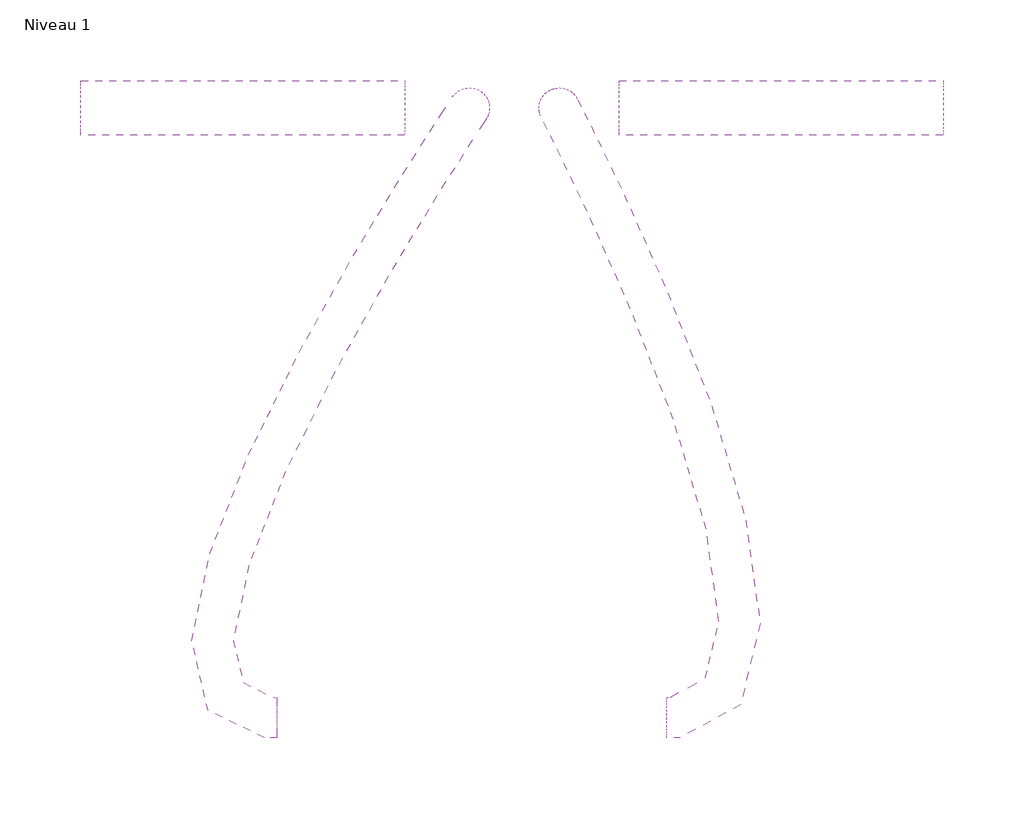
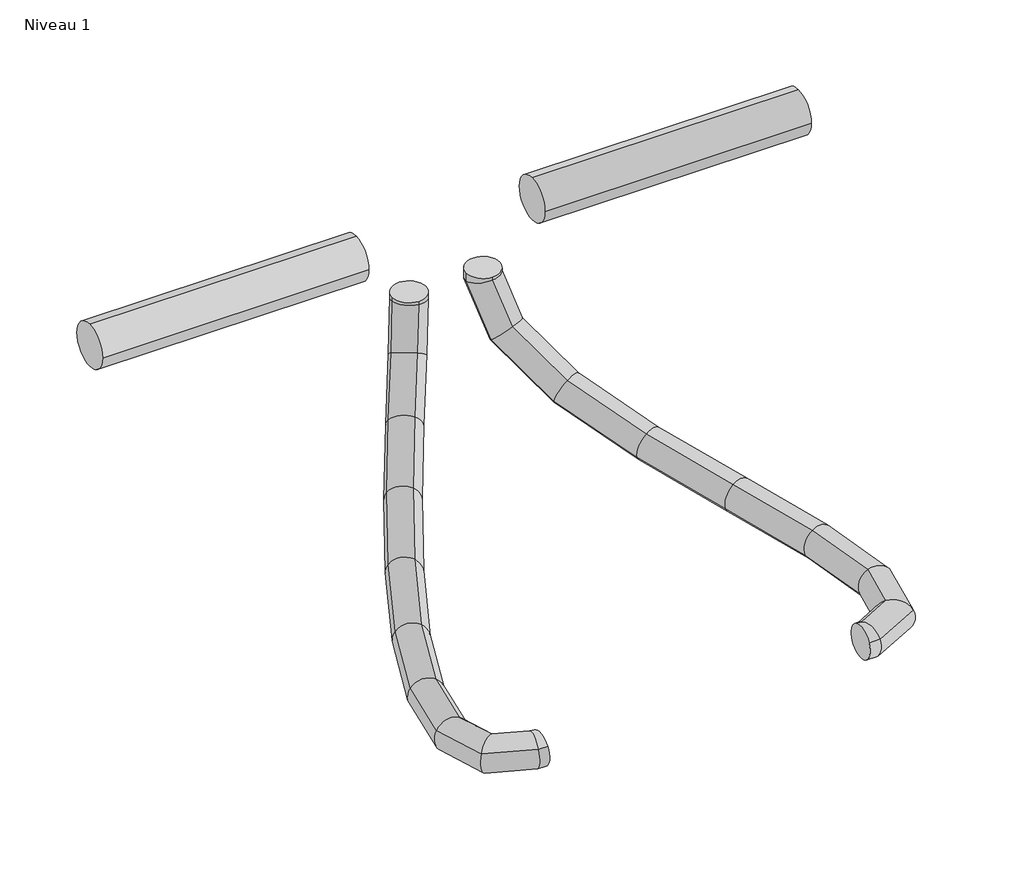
# One storey, incomplete: 4 pipe segments.
"""IFC4 building model written with IfcOpenShell, lengths in millimetres."""

from ifc_helpers import new_model, si_unit, point, frame, frame_2d, origin, place, context, project, spatial, circle_curve, ellipse_curve, trimmed, segment, composite_curve, outline, extrude, element, save
from ifc_brep_helpers import plane_surface, cylinder_surface, advanced_brep

model = new_model("IFC4")

# Units and contexts
model_context = context("Model", 3, world=origin())
ifc_project = project(units=[si_unit("LENGTHUNIT", "METRE", prefix="MILLI")], contexts=[model_context])

# Site, building, storey
site = spatial("IfcSite", under=ifc_project)
building = spatial("IfcBuilding", under=site)
storey = spatial("IfcBuildingStorey", under=building, Name="Niveau 1", Elevation=0.0)

# Pipe segments
placement = place(None, origin())
element("IfcPipeSegment", 1, ObjectType="Souple - Circulaire", at=placement, inside=storey, context=model_context, shape_type="AdvancedBrep", body=[
    advanced_brep(
    [(2727.8458976, -571.1251876, 1557.88203), (2740.3458976, -583.6251876, 1557.88203), (2752.8458976, -571.1251876, 1557.88203), (2740.3458976, -558.6251876, 1557.88203), (2727.8458976, -571.1251876, 1551.5558728), (2740.3458976, -583.6251876, 1555.4941627), (2752.8458976, -571.1251876, 1554.2116964), (2740.3458976, -558.6251876, 1550.2734064), (2806.738103, -936.6631357, 1459.60311), (2806.738103, -953.6137318, 1454.585412), (2806.738103, -958.6314298, 1471.536008), (2806.738103, -941.6808338, 1476.5537061), (2736.6586557, -588.4491028, 1512.3543926), (2747.3762557, -597.4453023, 1524.2212694), (2760.4934863, -586.1586399, 1520.1931977), (2749.7758863, -577.1624405, 1508.3263209), (2758.0489896, -632.7806893, 1483.1216254), (2766.0776849, -636.2041187, 1498.6632521), (2780.2638556, -627.1328406, 1493.1743301), (2772.2351603, -623.7094112, 1477.6327035), (2785.0910125, -693.7065673, 1465.8559173), (2791.8228816, -694.208238, 1482.2255375), (2806.752386, -686.8116962, 1476.2620141), (2800.0205169, -686.3100256, 1459.8923939), (2811.8268554, -762.7069374, 1457.3736778), (2818.0385677, -761.8661773, 1473.9083235), (2833.5864407, -756.0655329, 1467.7486159), (2827.3747284, -756.9062931, 1451.2139702), (2832.1893271, -830.9066371, 1455.0529973), (2838.28373, -829.6729747, 1471.6010125), (2854.5027046, -826.12004, 1465.3648205), (2848.4083016, -827.3537024, 1448.8168052), (2840.1406558, -888.4778678, 1456.3396884), (2846.351738, -888.0890166, 1472.9065848), (2863.2084435, -889.153543, 1466.773591), (2856.9973612, -889.5423942, 1450.2066946), (2831.6177395, -924.3019756, 1458.5251782), (2837.0317468, -927.2634446, 1475.2964646), (2851.4362533, -938.6352224, 1469.7922761), (2846.0222459, -935.6737534, 1453.0209897), (2809.0671634, -936.6631357, 1459.60311), (2810.7299736, -941.6808338, 1476.5537061), (2814.9569915, -958.6314298, 1471.536008), (2813.2941814, -953.6137318, 1454.585412)],
    [
        (0, 1, circle_curve(frame((2740.3458976, -571.1251876, 1557.88203), z_axis=(0.0, 0.0, 1.0), x_axis=(-1.0, 0.0, 0.0)), 12.5)),
        (1, 2, circle_curve(frame((2740.3458976, -571.1251876, 1557.88203), z_axis=(0.0, 0.0, 1.0), x_axis=(-1.0, 0.0, 0.0)), 12.5)),
        (2, 3, circle_curve(frame((2740.3458976, -571.1251876, 1557.88203), z_axis=(0.0, 0.0, 1.0), x_axis=(-1.0, 0.0, 0.0)), 12.5)),
        (3, 0, circle_curve(frame((2740.3458976, -571.1251876, 1557.88203), z_axis=(0.0, 0.0, 1.0), x_axis=(-1.0, 0.0, 0.0)), 12.5)),
        (0, 4),
        (4, 5, ellipse_curve(frame((2740.3458976, -571.1251876, 1552.8837846), z_axis=(-0.1034318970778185, 0.20332402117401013, 0.9736329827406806), x_axis=(0.441454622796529, -0.8678012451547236, 0.2281201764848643)), 12.8385133, 12.5)),
        (5, 1),
        (5, 6, ellipse_curve(frame((2740.3458976, -571.1251876, 1552.8837846), z_axis=(-0.1034318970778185, 0.20332402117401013, 0.9736329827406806), x_axis=(0.441454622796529, -0.8678012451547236, 0.2281201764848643)), 12.8385133, 12.5)),
        (6, 2),
        (6, 7, ellipse_curve(frame((2740.3458976, -571.1251876, 1552.8837846), z_axis=(-0.1034318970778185, 0.20332402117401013, 0.9736329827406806), x_axis=(0.441454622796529, -0.8678012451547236, 0.2281201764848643)), 12.8385133, 12.5)),
        (7, 3),
        (7, 4, ellipse_curve(frame((2740.3458976, -571.1251876, 1552.8837846), z_axis=(-0.1034318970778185, 0.20332402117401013, 0.9736329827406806), x_axis=(0.441454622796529, -0.8678012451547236, 0.2281201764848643)), 12.8385133, 12.5)),
        (8, 9, circle_curve(frame((2806.738103, -947.6472828, 1465.569559), z_axis=(-1.0, 0.0, 0.0), x_axis=(0.0, 0.8787317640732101, -0.47731591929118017)), 12.5)),
        (9, 10, circle_curve(frame((2806.738103, -947.6472828, 1465.569559), z_axis=(-1.0, 0.0, 0.0), x_axis=(0.0, 0.8787317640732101, -0.47731591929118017)), 12.5)),
        (10, 11, circle_curve(frame((2806.738103, -947.6472828, 1465.569559), z_axis=(-1.0, 0.0, 0.0), x_axis=(0.0, 0.8787317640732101, -0.47731591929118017)), 12.5)),
        (11, 8, circle_curve(frame((2806.738103, -947.6472828, 1465.569559), z_axis=(-1.0, 0.0, 0.0), x_axis=(0.0, 0.8787317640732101, -0.47731591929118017)), 12.5)),
        (4, 12),
        (12, 13, ellipse_curve(frame((2748.576071, -587.3038714, 1516.2737951), z_axis=(-0.2998196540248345, 0.6101702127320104, 0.7333488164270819), x_axis=(0.30383064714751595, -0.6676119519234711, 0.6796920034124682)), 13.0345151, 12.5)),
        (13, 5),
        (13, 14, ellipse_curve(frame((2748.576071, -587.3038714, 1516.2737951), z_axis=(-0.2998196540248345, 0.6101702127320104, 0.7333488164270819), x_axis=(0.30383064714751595, -0.6676119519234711, 0.6796920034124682)), 13.0345151, 12.5)),
        (14, 6),
        (14, 15, ellipse_curve(frame((2748.576071, -587.3038714, 1516.2737951), z_axis=(-0.2998196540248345, 0.6101702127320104, 0.7333488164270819), x_axis=(0.30383064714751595, -0.6676119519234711, 0.6796920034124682)), 13.0345151, 12.5)),
        (15, 7),
        (15, 12, ellipse_curve(frame((2748.576071, -587.3038714, 1516.2737951), z_axis=(-0.2998196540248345, 0.6101702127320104, 0.7333488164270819), x_axis=(0.30383064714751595, -0.6676119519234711, 0.6796920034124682)), 13.0345151, 12.5)),
        (12, 16),
        (16, 17, ellipse_curve(frame((2769.1564226, -629.956765, 1488.1479778), z_axis=(-0.3870778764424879, 0.8380251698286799, 0.38455757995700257), x_axis=(0.06743332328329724, -0.3902234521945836, 0.9182474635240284)), 12.6270694, 12.5)),
        (17, 13),
        (17, 18, ellipse_curve(frame((2769.1564226, -629.956765, 1488.1479778), z_axis=(-0.3870778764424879, 0.8380251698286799, 0.38455757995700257), x_axis=(0.06743332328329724, -0.3902234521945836, 0.9182474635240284)), 12.6270694, 12.5)),
        (18, 14),
        (18, 19, ellipse_curve(frame((2769.1564226, -629.956765, 1488.1479778), z_axis=(-0.3870778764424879, 0.8380251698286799, 0.38455757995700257), x_axis=(0.06743332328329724, -0.3902234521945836, 0.9182474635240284)), 12.6270694, 12.5)),
        (19, 15),
        (19, 16, ellipse_curve(frame((2769.1564226, -629.956765, 1488.1479778), z_axis=(-0.3870778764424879, 0.8380251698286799, 0.38455757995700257), x_axis=(0.06743332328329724, -0.3902234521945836, 0.9182474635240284)), 12.6270694, 12.5)),
        (16, 20),
        (20, 21, ellipse_curve(frame((2795.9216993, -690.2591318, 1471.0589657), z_axis=(-0.37685623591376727, 0.908053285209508, 0.18280757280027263), x_axis=(-0.22980888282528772, -0.28284729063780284, 0.9312278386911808)), 12.533889, 12.5)),
        (21, 17),
        (21, 22, ellipse_curve(frame((2795.9216993, -690.2591318, 1471.0589657), z_axis=(-0.37685623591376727, 0.908053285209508, 0.18280757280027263), x_axis=(-0.22980888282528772, -0.28284729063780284, 0.9312278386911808)), 12.533889, 12.5)),
        (22, 18),
        (22, 23, ellipse_curve(frame((2795.9216993, -690.2591318, 1471.0589657), z_axis=(-0.37685623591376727, 0.908053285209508, 0.18280757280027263), x_axis=(-0.22980888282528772, -0.28284729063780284, 0.9312278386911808)), 12.533889, 12.5)),
        (23, 19),
        (23, 20, ellipse_curve(frame((2795.9216993, -690.2591318, 1471.0589657), z_axis=(-0.37685623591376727, 0.908053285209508, 0.18280757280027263), x_axis=(-0.22980888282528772, -0.28284729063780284, 0.9312278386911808)), 12.533889, 12.5)),
        (20, 24),
        (24, 25, ellipse_curve(frame((2822.706648, -759.3862352, 1462.5611468), z_axis=(-0.32296656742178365, 0.9435634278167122, 0.07335294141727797), x_axis=(-0.6423370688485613, -0.27546221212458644, 0.715208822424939)), 12.5202353, 12.5)),
        (25, 21),
        (25, 26, ellipse_curve(frame((2822.706648, -759.3862352, 1462.5611468), z_axis=(-0.32296656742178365, 0.9435634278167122, 0.07335294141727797), x_axis=(-0.6423370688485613, -0.27546221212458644, 0.715208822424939)), 12.5202353, 12.5)),
        (26, 22),
        (26, 27, ellipse_curve(frame((2822.706648, -759.3862352, 1462.5611468), z_axis=(-0.32296656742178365, 0.9435634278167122, 0.07335294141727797), x_axis=(-0.6423370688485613, -0.27546221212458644, 0.715208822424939)), 12.5202353, 12.5)),
        (27, 23),
        (27, 24, ellipse_curve(frame((2822.706648, -759.3862352, 1462.5611468), z_axis=(-0.32296656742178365, 0.9435634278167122, 0.07335294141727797), x_axis=(-0.6423370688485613, -0.27546221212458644, 0.715208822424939)), 12.5202353, 12.5)),
        (24, 28),
        (28, 29, ellipse_curve(frame((2843.3460158, -828.5133386, 1460.2089089), z_axis=(-0.21205873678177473, 0.9772428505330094, 0.005244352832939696), x_axis=(-0.9195853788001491, -0.20135772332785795, 0.3373689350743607)), 12.5413128, 12.5)),
        (29, 25),
        (29, 30, ellipse_curve(frame((2843.3460158, -828.5133386, 1460.2089089), z_axis=(-0.21205873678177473, 0.9772428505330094, 0.005244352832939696), x_axis=(-0.9195853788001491, -0.20135772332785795, 0.3373689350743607)), 12.5413128, 12.5)),
        (30, 26),
        (30, 31, ellipse_curve(frame((2843.3460158, -828.5133386, 1460.2089089), z_axis=(-0.21205873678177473, 0.9772428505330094, 0.005244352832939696), x_axis=(-0.9195853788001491, -0.20135772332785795, 0.3373689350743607)), 12.5413128, 12.5)),
        (31, 27),
        (31, 28, ellipse_curve(frame((2843.3460158, -828.5133386, 1460.2089089), z_axis=(-0.21205873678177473, 0.9772428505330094, 0.005244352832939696), x_axis=(-0.9195853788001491, -0.20135772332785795, 0.3373689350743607)), 12.5413128, 12.5)),
        (28, 32),
        (32, 33, ellipse_curve(frame((2851.6745496, -888.8157054, 1461.5566397), z_axis=(0.04796014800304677, 0.9979907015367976, -0.04140511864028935), x_axis=(-0.9936073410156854, 0.051908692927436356, 0.1002493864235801)), 12.7197907, 12.5)),
        (33, 29),
        (33, 34, ellipse_curve(frame((2851.6745496, -888.8157054, 1461.5566397), z_axis=(0.04796014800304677, 0.9979907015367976, -0.04140511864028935), x_axis=(-0.9936073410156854, 0.051908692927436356, 0.1002493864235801)), 12.7197907, 12.5)),
        (34, 30),
        (34, 35, ellipse_curve(frame((2851.6745496, -888.8157054, 1461.5566397), z_axis=(0.04796014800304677, 0.9979907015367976, -0.04140511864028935), x_axis=(-0.9936073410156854, 0.051908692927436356, 0.1002493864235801)), 12.7197907, 12.5)),
        (35, 31),
        (35, 32, ellipse_curve(frame((2851.6745496, -888.8157054, 1461.5566397), z_axis=(0.04796014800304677, 0.9979907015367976, -0.04140511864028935), x_axis=(-0.9936073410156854, 0.051908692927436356, 0.1002493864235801)), 12.7197907, 12.5)),
        (32, 36),
        (36, 37, ellipse_curve(frame((2841.5269964, -931.468599, 1464.1587272), z_axis=(0.6055830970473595, 0.7938575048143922, -0.055311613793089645), x_axis=(-0.7956113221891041, 0.6054286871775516, -0.02141795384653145)), 13.6740822, 12.5)),
        (37, 33),
        (37, 38, ellipse_curve(frame((2841.5269964, -931.468599, 1464.1587272), z_axis=(0.6055830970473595, 0.7938575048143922, -0.055311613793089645), x_axis=(-0.7956113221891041, 0.6054286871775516, -0.02141795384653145)), 13.6740822, 12.5)),
        (38, 34),
        (38, 39, ellipse_curve(frame((2841.5269964, -931.468599, 1464.1587272), z_axis=(0.6055830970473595, 0.7938575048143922, -0.055311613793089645), x_axis=(-0.7956113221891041, 0.6054286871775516, -0.02141795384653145)), 13.6740822, 12.5)),
        (39, 35),
        (39, 36, ellipse_curve(frame((2841.5269964, -931.468599, 1464.1587272), z_axis=(0.6055830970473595, 0.7938575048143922, -0.055311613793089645), x_axis=(-0.7956113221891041, 0.6054286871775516, -0.02141795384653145)), 13.6740822, 12.5)),
        (36, 40),
        (40, 41, ellipse_curve(frame((2812.0120775, -947.6472828, 1465.569559), z_axis=(0.9685374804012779, 0.24792685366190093, -0.021619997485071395), x_axis=(-0.24886773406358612, 0.9648757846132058, -0.08414018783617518)), 12.9060571, 12.5)),
        (41, 37),
        (41, 42, ellipse_curve(frame((2812.0120775, -947.6472828, 1465.569559), z_axis=(0.9685374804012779, 0.24792685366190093, -0.021619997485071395), x_axis=(-0.24886773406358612, 0.9648757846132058, -0.08414018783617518)), 12.9060571, 12.5)),
        (42, 38),
        (42, 43, ellipse_curve(frame((2812.0120775, -947.6472828, 1465.569559), z_axis=(0.9685374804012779, 0.24792685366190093, -0.021619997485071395), x_axis=(-0.24886773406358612, 0.9648757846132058, -0.08414018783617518)), 12.9060571, 12.5)),
        (43, 39),
        (43, 40, ellipse_curve(frame((2812.0120775, -947.6472828, 1465.569559), z_axis=(0.9685374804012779, 0.24792685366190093, -0.021619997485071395), x_axis=(-0.24886773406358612, 0.9648757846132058, -0.08414018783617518)), 12.9060571, 12.5)),
        (40, 8),
        (11, 41),
        (10, 42),
        (9, 43),
    ],
    [
        plane_surface(frame((2740.3458976, -583.6251876, 1557.88203), z_axis=(0.0, 0.0, 1.0), x_axis=(-1.0, 0.0, 0.0))),
        cylinder_surface(frame((2740.3458976, -571.1251876, 1557.88203), z_axis=(0.0, 0.0, 1.0), x_axis=(-1.0, 0.0, 0.0)), 12.5),
        plane_surface(frame((2806.738103, -947.6472828, 1453.069559), z_axis=(-1.0, 0.0, 0.0), x_axis=(0.0, -1.0, 0.0))),
        cylinder_surface(frame((2740.3458976, -571.1251876, 1552.8837846), z_axis=(-0.201409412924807, 0.39592594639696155, 0.8959223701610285), x_axis=(-0.9786036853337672, -0.042060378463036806, -0.201409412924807)), 12.5),
        cylinder_surface(frame((2748.576071, -587.3038714, 1516.2737951), z_axis=(-0.37364008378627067, 0.7743711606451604, 0.5106294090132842), x_axis=(-0.9066246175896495, -0.188546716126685, -0.37746779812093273)), 12.5),
        cylinder_surface(frame((2769.1564226, -629.956765, 1488.1479778), z_axis=(-0.3927251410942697, 0.8848126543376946, 0.25074594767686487), x_axis=(-0.8696437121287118, -0.2686105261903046, -0.4142079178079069)), 12.5),
        cylinder_surface(frame((2795.9216993, -690.2591318, 1471.0589657), z_axis=(-0.3589494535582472, 0.9263835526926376, 0.11388065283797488), x_axis=(-0.8635404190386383, -0.28331670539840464, -0.41716853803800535)), 12.5),
        cylinder_surface(frame((2822.706648, -759.3862352, 1462.5611468), z_axis=(-0.2859397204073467, 0.9576933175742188, 0.03258812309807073), x_axis=(-0.8758345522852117, -0.24739876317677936, -0.4143762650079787)), 12.5),
        cylinder_surface(frame((2843.3460158, -828.5133386, 1460.2089089), z_axis=(-0.13678065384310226, 0.9903540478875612, -0.02213396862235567), x_axis=(-0.9005238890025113, -0.13362142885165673, -0.4137656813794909)), 12.5),
        cylinder_surface(frame((2851.6745496, -888.8157054, 1461.5566397), z_axis=(0.23104350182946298, 0.9711379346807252, -0.05924535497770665), x_axis=(-0.8852332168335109, 0.18455833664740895, -0.42696647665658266)), 12.5),
        cylinder_surface(frame((2841.5269964, -931.468599, 1464.1587272), z_axis=(0.876129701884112, 0.48025290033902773, -0.04187955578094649), x_axis=(-0.442003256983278, 0.765587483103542, -0.4674493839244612)), 12.5),
        cylinder_surface(frame((2812.0120775, -947.6472828, 1465.569559), z_axis=(1.0000000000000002, 0.0, 0.0), x_axis=(0.0, 0.8787317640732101, -0.47731591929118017)), 12.5),
    ],
    [
        (0, [[1, 2, 3, 4]]),
        (1, [[-1, 5, 6, 7]]),
        (1, [[-2, -7, 8, 9]]),
        (1, [[-3, -9, 10, 11]]),
        (1, [[-4, -11, 12, -5]]),
        (2, [[13, 14, 15, 16]]),
        (3, [[-6, 17, 18, 19]]),
        (3, [[-8, -19, 20, 21]]),
        (3, [[-10, -21, 22, 23]]),
        (3, [[-12, -23, 24, -17]]),
        (4, [[-18, 25, 26, 27]]),
        (4, [[-20, -27, 28, 29]]),
        (4, [[-22, -29, 30, 31]]),
        (4, [[-24, -31, 32, -25]]),
        (5, [[-26, 33, 34, 35]]),
        (5, [[-28, -35, 36, 37]]),
        (5, [[-30, -37, 38, 39]]),
        (5, [[-32, -39, 40, -33]]),
        (6, [[-34, 41, 42, 43]]),
        (6, [[-36, -43, 44, 45]]),
        (6, [[-38, -45, 46, 47]]),
        (6, [[-40, -47, 48, -41]]),
        (7, [[-42, 49, 50, 51]]),
        (7, [[-44, -51, 52, 53]]),
        (7, [[-46, -53, 54, 55]]),
        (7, [[-48, -55, 56, -49]]),
        (8, [[-50, 57, 58, 59]]),
        (8, [[-52, -59, 60, 61]]),
        (8, [[-54, -61, 62, 63]]),
        (8, [[-56, -63, 64, -57]]),
        (9, [[-58, 65, 66, 67]]),
        (9, [[-60, -67, 68, 69]]),
        (9, [[-62, -69, 70, 71]]),
        (9, [[-64, -71, 72, -65]]),
        (10, [[-66, 73, 74, 75]]),
        (10, [[-68, -75, 76, 77]]),
        (10, [[-70, -77, 78, 79]]),
        (10, [[-72, -79, 80, -73]]),
        (11, [[-74, 81, -16, 82]]),
        (11, [[-76, -82, -15, 83]]),
        (11, [[-78, -83, -14, 84]]),
        (11, [[-80, -84, -13, -81]]),
    ],
),
])
element("IfcPipeSegment", 2, ObjectType="Souple - Circulaire", at=placement, inside=storey, context=model_context, shape_type="AdvancedBrep", body=[
    advanced_brep(
    [(2672.3578934, -571.1251876, 1557.9427811), (2684.8578934, -583.6251876, 1557.9427811), (2697.3578934, -571.1251876, 1557.9427811), (2684.8578934, -558.6251876, 1557.9427811), (2672.3578934, -571.1251876, 1554.7976307), (2684.8578934, -583.6251876, 1555.5625702), (2697.3578934, -571.1251876, 1551.8200086), (2684.8578934, -558.6251876, 1551.0550691), (2565.8991011, -957.6729247, 1473.0352475), (2565.8991011, -955.1129712, 1455.5439171), (2565.8991011, -937.6216409, 1458.1038705), (2565.8991011, -940.1815943, 1475.5952009), (2664.5973417, -582.8730503, 1523.740214), (2677.5303592, -594.7175517, 1526.2380724), (2688.0589302, -585.2018856, 1514.6059311), (2675.1259127, -573.3573842, 1512.1080727), (2643.7745713, -615.5390683, 1497.8723707), (2657.5534552, -626.0566048, 1501.4210372), (2664.7642863, -621.7456903, 1485.6673131), (2650.9854025, -611.2281538, 1482.1186465), (2614.0714892, -664.6650201, 1480.3654798), (2628.5117323, -674.0887339, 1484.3039492), (2633.8837504, -672.819034, 1467.4664351), (2619.4435072, -663.3953202, 1463.5279657), (2581.001673, -723.7768578, 1470.2923173), (2596.0216304, -732.1643407, 1474.4073693), (2600.4954401, -732.5001756, 1457.2962583), (2585.4754828, -724.1126928, 1453.1812063), (2550.0179005, -786.50167, 1466.0702916), (2565.6929255, -793.5630072, 1470.2746069), (2569.7382736, -794.7662373, 1453.1051113), (2554.0632486, -787.7049001, 1448.900796), (2526.4235919, -846.8659621, 1465.959887), (2542.9808387, -851.6702002, 1470.1683304), (2546.9005259, -853.1949244, 1452.9982468), (2530.3432792, -848.3906863, 1448.7898034), (2515.5634602, -899.8664115, 1468.2578436), (2533.197442, -899.4158845, 1472.2384546), (2537.2291799, -900.3937706, 1455.0446616), (2519.5951981, -900.8442976, 1451.0640506), (2525.1660075, -941.5053489, 1471.4295037), (2540.0920379, -929.312498, 1474.5156956), (2543.5874288, -927.9646559, 1457.1447506), (2528.6613985, -940.1575069, 1454.0585587), (2558.6991386, -957.6729247, 1473.0352475), (2562.6356052, -940.1815943, 1475.5952009), (2563.6169588, -937.6216409, 1458.1038705), (2559.6804922, -955.1129712, 1455.5439171)],
    [
        (0, 1, circle_curve(frame((2684.8578934, -571.1251876, 1557.9427811), z_axis=(0.0, 0.0, 1.0), x_axis=(-1.0, 0.0, 0.0)), 12.5)),
        (1, 2, circle_curve(frame((2684.8578934, -571.1251876, 1557.9427811), z_axis=(0.0, 0.0, 1.0), x_axis=(-1.0, 0.0, 0.0)), 12.5)),
        (2, 3, circle_curve(frame((2684.8578934, -571.1251876, 1557.9427811), z_axis=(0.0, 0.0, 1.0), x_axis=(-1.0, 0.0, 0.0)), 12.5)),
        (3, 0, circle_curve(frame((2684.8578934, -571.1251876, 1557.9427811), z_axis=(0.0, 0.0, 1.0), x_axis=(-1.0, 0.0, 0.0)), 12.5)),
        (0, 4),
        (4, 5, ellipse_curve(frame((2684.8578934, -571.1251876, 1553.3088196), z_axis=(0.116417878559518, 0.17623247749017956, 0.9774400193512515), x_axis=(-0.5387518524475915, -0.8155583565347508, 0.21121318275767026)), 12.7885085, 12.5)),
        (5, 1),
        (5, 6, ellipse_curve(frame((2684.8578934, -571.1251876, 1553.3088196), z_axis=(0.116417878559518, 0.17623247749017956, 0.9774400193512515), x_axis=(-0.5387518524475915, -0.8155583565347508, 0.21121318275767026)), 12.7885085, 12.5)),
        (6, 2),
        (6, 7, ellipse_curve(frame((2684.8578934, -571.1251876, 1553.3088196), z_axis=(0.116417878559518, 0.17623247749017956, 0.9774400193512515), x_axis=(-0.5387518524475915, -0.8155583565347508, 0.21121318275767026)), 12.7885085, 12.5)),
        (7, 3),
        (7, 4, ellipse_curve(frame((2684.8578934, -571.1251876, 1553.3088196), z_axis=(0.116417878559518, 0.17623247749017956, 0.9774400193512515), x_axis=(-0.5387518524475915, -0.8155583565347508, 0.21121318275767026)), 12.7885085, 12.5)),
        (8, 9, circle_curve(frame((2565.8991011, -947.6472828, 1465.569559), z_axis=(1.0, 0.0, 0.0), x_axis=(0.0, -0.8020513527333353, 0.5972550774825)), 12.5)),
        (9, 10, circle_curve(frame((2565.8991011, -947.6472828, 1465.569559), z_axis=(1.0, 0.0, 0.0), x_axis=(0.0, -0.8020513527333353, 0.5972550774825)), 12.5)),
        (10, 11, circle_curve(frame((2565.8991011, -947.6472828, 1465.569559), z_axis=(1.0, 0.0, 0.0), x_axis=(0.0, -0.8020513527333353, 0.5972550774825)), 12.5)),
        (11, 8, circle_curve(frame((2565.8991011, -947.6472828, 1465.569559), z_axis=(1.0, 0.0, 0.0), x_axis=(0.0, -0.8020513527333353, 0.5972550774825)), 12.5)),
        (4, 12),
        (12, 13, ellipse_curve(frame((2676.3281359, -584.0374679, 1519.1730726), z_axis=(0.350794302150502, 0.543807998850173, 0.7623753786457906), x_axis=(-0.39945902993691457, -0.6494311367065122, 0.6470484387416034)), 12.9999976, 12.5)),
        (13, 5),
        (13, 14, ellipse_curve(frame((2676.3281359, -584.0374679, 1519.1730726), z_axis=(0.350794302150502, 0.543807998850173, 0.7623753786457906), x_axis=(-0.39945902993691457, -0.6494311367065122, 0.6470484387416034)), 12.9999976, 12.5)),
        (14, 6),
        (14, 15, ellipse_curve(frame((2676.3281359, -584.0374679, 1519.1730726), z_axis=(0.350794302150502, 0.543807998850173, 0.7623753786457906), x_axis=(-0.39945902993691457, -0.6494311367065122, 0.6470484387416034)), 12.9999976, 12.5)),
        (15, 7),
        (15, 12, ellipse_curve(frame((2676.3281359, -584.0374679, 1519.1730726), z_axis=(0.350794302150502, 0.543807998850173, 0.7623753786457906), x_axis=(-0.39945902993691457, -0.6494311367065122, 0.6470484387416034)), 12.9999976, 12.5)),
        (12, 16),
        (16, 17, ellipse_curve(frame((2654.2694288, -618.6423793, 1491.7698419), z_axis=(0.4760817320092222, 0.7681562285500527, 0.4281146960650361), x_axis=(-0.1637175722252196, -0.4008946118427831, 0.901376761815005)), 12.6358448, 12.5)),
        (17, 13),
        (17, 18, ellipse_curve(frame((2654.2694288, -618.6423793, 1491.7698419), z_axis=(0.4760817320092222, 0.7681562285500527, 0.4281146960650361), x_axis=(-0.1637175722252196, -0.4008946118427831, 0.901376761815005)), 12.6358448, 12.5)),
        (18, 14),
        (18, 19, ellipse_curve(frame((2654.2694288, -618.6423793, 1491.7698419), z_axis=(0.4760817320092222, 0.7681562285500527, 0.4281146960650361), x_axis=(-0.1637175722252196, -0.4008946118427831, 0.901376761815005)), 12.6358448, 12.5)),
        (19, 15),
        (19, 16, ellipse_curve(frame((2654.2694288, -618.6423793, 1491.7698419), z_axis=(0.4760817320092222, 0.7681562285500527, 0.4281146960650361), x_axis=(-0.1637175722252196, -0.4008946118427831, 0.901376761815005)), 12.6358448, 12.5)),
        (16, 20),
        (20, 21, ellipse_curve(frame((2623.9776198, -668.7420271, 1473.9159574), z_axis=(0.49032913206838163, 0.8433048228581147, 0.22003253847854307), x_axis=(0.07892340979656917, -0.2943916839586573, 0.9524204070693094)), 12.5361705, 12.5)),
        (21, 17),
        (21, 22, ellipse_curve(frame((2623.9776198, -668.7420271, 1473.9159574), z_axis=(0.49032913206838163, 0.8433048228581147, 0.22003253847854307), x_axis=(0.07892340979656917, -0.2943916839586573, 0.9524204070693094)), 12.5361705, 12.5)),
        (22, 18),
        (22, 23, ellipse_curve(frame((2623.9776198, -668.7420271, 1473.9159574), z_axis=(0.49032913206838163, 0.8433048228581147, 0.22003253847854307), x_axis=(0.07892340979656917, -0.2943916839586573, 0.9524204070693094)), 12.5361705, 12.5)),
        (23, 19),
        (23, 20, ellipse_curve(frame((2623.9776198, -668.7420271, 1473.9159574), z_axis=(0.49032913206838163, 0.8433048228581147, 0.22003253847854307), x_axis=(0.07892340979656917, -0.2943916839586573, 0.9524204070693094)), 12.5361705, 12.5)),
        (20, 24),
        (24, 25, ellipse_curve(frame((2590.7485566, -728.1385167, 1463.7942878), z_axis=(0.46309084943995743, 0.8802112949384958, 0.10380241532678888), x_axis=(0.40406087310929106, -0.31390458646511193, 0.8591849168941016)), 12.5160001, 12.5)),
        (25, 21),
        (25, 26, ellipse_curve(frame((2590.7485566, -728.1385167, 1463.7942878), z_axis=(0.46309084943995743, 0.8802112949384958, 0.10380241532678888), x_axis=(0.40406087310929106, -0.31390458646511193, 0.8591849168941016)), 12.5160001, 12.5)),
        (26, 22),
        (26, 27, ellipse_curve(frame((2590.7485566, -728.1385167, 1463.7942878), z_axis=(0.46309084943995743, 0.8802112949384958, 0.10380241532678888), x_axis=(0.40406087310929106, -0.31390458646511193, 0.8591849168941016)), 12.5160001, 12.5)),
        (27, 23),
        (27, 24, ellipse_curve(frame((2590.7485566, -728.1385167, 1463.7942878), z_axis=(0.46309084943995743, 0.8802112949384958, 0.10380241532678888), x_axis=(0.40406087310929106, -0.31390458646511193, 0.8591849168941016)), 12.5160001, 12.5)),
        (24, 28),
        (28, 29, ellipse_curve(frame((2559.878087, -790.6339536, 1459.5877014), z_axis=(0.4036066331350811, 0.9144068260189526, 0.031013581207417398), x_axis=(0.7493866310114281, -0.3498358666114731, 0.5621694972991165)), 12.5169753, 12.5)),
        (29, 25),
        (29, 30, ellipse_curve(frame((2559.878087, -790.6339536, 1459.5877014), z_axis=(0.4036066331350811, 0.9144068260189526, 0.031013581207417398), x_axis=(0.7493866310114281, -0.3498358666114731, 0.5621694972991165)), 12.5169753, 12.5)),
        (30, 26),
        (30, 31, ellipse_curve(frame((2559.878087, -790.6339536, 1459.5877014), z_axis=(0.4036066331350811, 0.9144068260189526, 0.031013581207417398), x_axis=(0.7493866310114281, -0.3498358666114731, 0.5621694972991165)), 12.5169753, 12.5)),
        (31, 27),
        (31, 28, ellipse_curve(frame((2559.878087, -790.6339536, 1459.5877014), z_axis=(0.4036066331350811, 0.9144068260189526, 0.031013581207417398), x_axis=(0.7493866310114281, -0.3498358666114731, 0.5621694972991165)), 12.5169753, 12.5)),
        (28, 32),
        (32, 33, ellipse_curve(frame((2536.6620589, -850.0304433, 1459.4790669), z_axis=(0.283397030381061, 0.9587846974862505, -0.020445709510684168), x_axis=(0.9297239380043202, -0.2694545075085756, 0.25101328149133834)), 12.548598, 12.5)),
        (33, 29),
        (33, 34, ellipse_curve(frame((2536.6620589, -850.0304433, 1459.4790669), z_axis=(0.283397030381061, 0.9587846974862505, -0.020445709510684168), x_axis=(0.9297239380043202, -0.2694545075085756, 0.25101328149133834)), 12.548598, 12.5)),
        (34, 30),
        (34, 35, ellipse_curve(frame((2536.6620589, -850.0304433, 1459.4790669), z_axis=(0.283397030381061, 0.9587846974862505, -0.020445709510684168), x_axis=(0.9297239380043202, -0.2694545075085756, 0.25101328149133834)), 12.548598, 12.5)),
        (35, 31),
        (35, 32, ellipse_curve(frame((2536.6620589, -850.0304433, 1459.4790669), z_axis=(0.283397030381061, 0.9587846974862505, -0.020445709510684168), x_axis=(0.9297239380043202, -0.2694545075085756, 0.25101328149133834)), 12.548598, 12.5)),
        (32, 36),
        (36, 37, ellipse_curve(frame((2526.3963201, -900.1300911, 1461.6512526), z_axis=(-0.012048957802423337, 0.9981499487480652, -0.05959448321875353), x_axis=(0.9971106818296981, 0.01646393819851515, 0.0741567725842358)), 12.793421, 12.5)),
        (37, 33),
        (37, 38, ellipse_curve(frame((2526.3963201, -900.1300911, 1461.6512526), z_axis=(-0.012048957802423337, 0.9981499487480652, -0.05959448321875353), x_axis=(0.9971106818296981, 0.01646393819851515, 0.0741567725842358)), 12.793421, 12.5)),
        (38, 34),
        (38, 39, ellipse_curve(frame((2526.3963201, -900.1300911, 1461.6512526), z_axis=(-0.012048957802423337, 0.9981499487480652, -0.05959448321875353), x_axis=(0.9971106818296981, 0.01646393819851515, 0.0741567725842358)), 12.793421, 12.5)),
        (39, 35),
        (39, 36, ellipse_curve(frame((2526.3963201, -900.1300911, 1461.6512526), z_axis=(-0.012048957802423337, 0.9981499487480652, -0.05959448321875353), x_axis=(0.9971106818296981, 0.01646393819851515, 0.0741567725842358)), 12.793421, 12.5)),
        (36, 40),
        (40, 41, ellipse_curve(frame((2534.3767182, -934.7350024, 1464.2871272), z_axis=(-0.6232142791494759, 0.7793508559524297, -0.06493231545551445), x_axis=(0.7819508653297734, 0.6223122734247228, -0.035780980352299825)), 13.86111, 12.5)),
        (41, 37),
        (41, 42, ellipse_curve(frame((2534.3767182, -934.7350024, 1464.2871272), z_axis=(-0.6232142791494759, 0.7793508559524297, -0.06493231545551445), x_axis=(0.7819508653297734, 0.6223122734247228, -0.035780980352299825)), 13.86111, 12.5)),
        (42, 38),
        (42, 43, ellipse_curve(frame((2534.3767182, -934.7350024, 1464.2871272), z_axis=(-0.6232142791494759, 0.7793508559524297, -0.06493231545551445), x_axis=(0.7819508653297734, 0.6223122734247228, -0.035780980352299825)), 13.86111, 12.5)),
        (43, 39),
        (43, 40, ellipse_curve(frame((2534.3767182, -934.7350024, 1464.2871272), z_axis=(-0.6232142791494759, 0.7793508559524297, -0.06493231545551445), x_axis=(0.7819508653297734, 0.6223122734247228, -0.035780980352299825)), 13.86111, 12.5)),
        (40, 44),
        (44, 45, ellipse_curve(frame((2561.1580487, -947.6472828, 1465.569559), z_axis=(-0.9746624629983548, 0.2225856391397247, -0.022106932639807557), x_axis=(0.22368076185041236, 0.9698905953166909, -0.09632834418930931)), 12.8249527, 12.5)),
        (45, 41),
        (45, 46, ellipse_curve(frame((2561.1580487, -947.6472828, 1465.569559), z_axis=(-0.9746624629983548, 0.2225856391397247, -0.022106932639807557), x_axis=(0.22368076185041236, 0.9698905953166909, -0.09632834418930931)), 12.8249527, 12.5)),
        (46, 42),
        (46, 47, ellipse_curve(frame((2561.1580487, -947.6472828, 1465.569559), z_axis=(-0.9746624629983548, 0.2225856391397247, -0.022106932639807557), x_axis=(0.22368076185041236, 0.9698905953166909, -0.09632834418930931)), 12.8249527, 12.5)),
        (47, 43),
        (47, 44, ellipse_curve(frame((2561.1580487, -947.6472828, 1465.569559), z_axis=(-0.9746624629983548, 0.2225856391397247, -0.022106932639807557), x_axis=(0.22368076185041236, 0.9698905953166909, -0.09632834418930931)), 12.8249527, 12.5)),
        (44, 8),
        (11, 45),
        (10, 46),
        (9, 47),
    ],
    [
        plane_surface(frame((2684.8578934, -583.6251876, 1557.9427811), z_axis=(0.0, 0.0, 1.0), x_axis=(-1.0, 0.0, 0.0))),
        cylinder_surface(frame((2684.8578934, -571.1251876, 1557.9427811), z_axis=(0.0, 0.0, 1.0), x_axis=(-1.0, 0.0, 0.0)), 12.5),
        plane_surface(frame((2565.8991011, -947.6472828, 1453.069559), z_axis=(1.0, 0.0, 0.0), x_axis=(0.0, 1.0, 0.0))),
        cylinder_surface(frame((2684.8578934, -571.1251876, 1553.3088196), z_axis=(0.2275829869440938, 0.34451335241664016, 0.9107779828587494), x_axis=(-0.9728937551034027, 0.04103322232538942, 0.2275829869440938)), 12.5),
        cylinder_surface(frame((2676.3281359, -584.0374679, 1519.1730726), z_axis=(0.44702156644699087, 0.7012714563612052, 0.5553287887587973), x_axis=(-0.8708352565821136, 0.19924624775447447, 0.4493850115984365)), 12.5),
        cylinder_surface(frame((2654.2694288, -618.6423793, 1491.7698419), z_axis=(0.4949054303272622, 0.8185244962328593, 0.2916954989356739), x_axis=(-0.8049948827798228, 0.3054794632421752, 0.5085917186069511)), 12.5),
        cylinder_surface(frame((2623.9776198, -668.7420271, 1473.9159574), z_axis=(0.4829233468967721, 0.8632187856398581, 0.14709986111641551), x_axis=(-0.7802887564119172, 0.34797091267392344, 0.5196784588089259)), 12.5),
        cylinder_surface(frame((2590.7485566, -728.1385167, 1463.7942878), z_axis=(0.4420743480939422, 0.8949533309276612, 0.060239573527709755), x_axis=(-0.779258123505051, 0.34992986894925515, 0.5199094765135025)), 12.5),
        cylinder_surface(frame((2559.878087, -790.6339536, 1459.5877014), z_axis=(0.36404419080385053, 0.93138011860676, 0.001703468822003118), x_axis=(-0.7966848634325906, 0.310448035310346, 0.5185703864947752)), 12.5),
        cylinder_surface(frame((2536.6620589, -850.0304433, 1459.4790669), z_axis=(0.2005548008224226, 0.9787629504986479, -0.04243652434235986), x_axis=(-0.8314135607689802, 0.19295441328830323, 0.5210758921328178)), 12.5),
        cylinder_surface(frame((2526.3963201, -900.1300911, 1461.6512526), z_axis=(-0.22410002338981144, 0.9717512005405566, -0.07401880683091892), x_axis=(-0.8272792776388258, -0.14953450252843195, 0.54152417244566)), 12.5),
        cylinder_surface(frame((2534.3767182, -934.7350024, 1464.2871272), z_axis=(-0.899933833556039, 0.433891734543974, -0.04309359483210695), x_axis=(-0.373741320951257, -0.7166992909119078, 0.5887780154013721)), 12.5),
        cylinder_surface(frame((2561.1580487, -947.6472828, 1465.569559), z_axis=(-1.0, 0.0, 0.0), x_axis=(0.0, -0.8020513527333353, 0.5972550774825)), 12.5),
    ],
    [
        (0, [[1, 2, 3, 4]]),
        (1, [[-1, 5, 6, 7]]),
        (1, [[-2, -7, 8, 9]]),
        (1, [[-3, -9, 10, 11]]),
        (1, [[-4, -11, 12, -5]]),
        (2, [[13, 14, 15, 16]]),
        (3, [[-6, 17, 18, 19]]),
        (3, [[-8, -19, 20, 21]]),
        (3, [[-10, -21, 22, 23]]),
        (3, [[-12, -23, 24, -17]]),
        (4, [[-18, 25, 26, 27]]),
        (4, [[-20, -27, 28, 29]]),
        (4, [[-22, -29, 30, 31]]),
        (4, [[-24, -31, 32, -25]]),
        (5, [[-26, 33, 34, 35]]),
        (5, [[-28, -35, 36, 37]]),
        (5, [[-30, -37, 38, 39]]),
        (5, [[-32, -39, 40, -33]]),
        (6, [[-34, 41, 42, 43]]),
        (6, [[-36, -43, 44, 45]]),
        (6, [[-38, -45, 46, 47]]),
        (6, [[-40, -47, 48, -41]]),
        (7, [[-42, 49, 50, 51]]),
        (7, [[-44, -51, 52, 53]]),
        (7, [[-46, -53, 54, 55]]),
        (7, [[-48, -55, 56, -49]]),
        (8, [[-50, 57, 58, 59]]),
        (8, [[-52, -59, 60, 61]]),
        (8, [[-54, -61, 62, 63]]),
        (8, [[-56, -63, 64, -57]]),
        (9, [[-58, 65, 66, 67]]),
        (9, [[-60, -67, 68, 69]]),
        (9, [[-62, -69, 70, 71]]),
        (9, [[-64, -71, 72, -65]]),
        (10, [[-66, 73, 74, 75]]),
        (10, [[-68, -75, 76, 77]]),
        (10, [[-70, -77, 78, 79]]),
        (10, [[-72, -79, 80, -73]]),
        (11, [[-74, 81, 82, 83]]),
        (11, [[-76, -83, 84, 85]]),
        (11, [[-78, -85, 86, 87]]),
        (11, [[-80, -87, 88, -81]]),
        (12, [[-82, 89, -16, 90]]),
        (12, [[-84, -90, -15, 91]]),
        (12, [[-86, -91, -14, 92]]),
        (12, [[-88, -92, -13, -89]]),
    ],
),
])
element("IfcPipeSegment", 3, ObjectType="Standard", at=placement, inside=storey, context=model_context, shape_type="SweptSolid", body=[
    extrude(outline(composite_curve([segment(trimmed(circle_curve(frame_2d((-571.1251876, 1599.5)), 16.7005), [point((-554.4246876, 1599.5))], [point((-571.1251876, 1582.7995))], False, "CARTESIAN"), True, "CONTINUOUS"), segment(trimmed(circle_curve(frame_2d((-571.1251876, 1599.5)), 16.7005), [point((-571.1251876, 1582.7995))], [point((-587.8256876, 1599.5))], False, "CARTESIAN"), True, "CONTINUOUS"), segment(trimmed(circle_curve(frame_2d((-571.1251876, 1599.5)), 16.7005), [point((-587.8256876, 1599.5))], [point((-571.1251876, 1616.2005))], False, "CARTESIAN"), True, "CONTINUOUS"), segment(trimmed(circle_curve(frame_2d((-571.1251876, 1599.5)), 16.7005), [point((-571.1251876, 1616.2005))], [point((-554.4246876, 1599.5))], False, "CARTESIAN"), True, "CONTINUOUS")], self_intersect=False)), frame((2445.0924348, 0.0, 0.0), z_axis=(1.0, 0.0, 0.0), x_axis=(0.0, 1.0, 0.0)), (0.0, 0.0, 1.0), 200.0),
])
element("IfcPipeSegment", 4, ObjectType="Standard", at=placement, inside=storey, context=model_context, shape_type="SweptSolid", body=[
    extrude(outline(composite_curve([segment(trimmed(circle_curve(frame_2d((-571.1251876, 1599.5)), 16.7005), [point((-587.8256876, 1599.5))], [point((-571.1251876, 1616.2005))], False, "CARTESIAN"), True, "CONTINUOUS"), segment(trimmed(circle_curve(frame_2d((-571.1251876, 1599.5)), 16.7005), [point((-571.1251876, 1616.2005))], [point((-554.4246876, 1599.5))], False, "CARTESIAN"), True, "CONTINUOUS"), segment(trimmed(circle_curve(frame_2d((-571.1251876, 1599.5)), 16.7005), [point((-554.4246876, 1599.5))], [point((-571.1251876, 1582.7995))], False, "CARTESIAN"), True, "CONTINUOUS"), segment(trimmed(circle_curve(frame_2d((-571.1251876, 1599.5)), 16.7005), [point((-571.1251876, 1582.7995))], [point((-587.8256876, 1599.5))], False, "CARTESIAN"), True, "CONTINUOUS")], self_intersect=False)), frame((2777.3424348, 0.0, 0.0), z_axis=(1.0, 0.0, 0.0), x_axis=(0.0, 1.0, 0.0)), (0.0, 0.0, 1.0), 200.0),
])

save(model, "model.ifc")
